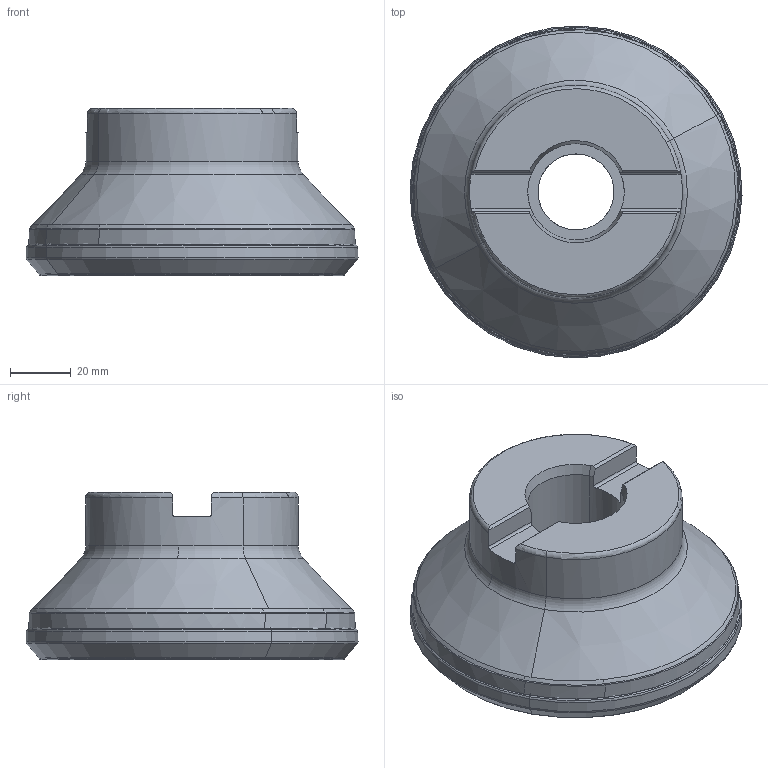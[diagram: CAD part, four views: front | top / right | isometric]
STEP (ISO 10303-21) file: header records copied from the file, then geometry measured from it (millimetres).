
FILE_DESCRIPTION(('CATIA V5 STEP','CAx-IF Rec.Pracs.--- Model Styling and Organization---1.2---2011-12-15'),'2;1');
FILE_NAME('N:\data\isr\design\special1\users\NATALY_B\Tal\NPA\3106857\IQ845 FSYD100-07-3175-R07-L.stp','2016-05-29T08:09:04+00:00',('none'),('none'),'CATIA Version 5 Release 21 SP 5 (IN-10)','CATIA V5 STEP AP214','none');
FILE_SCHEMA(('AUTOMOTIVE_DESIGN { 1 0 10303 214 1 1 1 1 }'));
Length unit declared in the file: millimetre
Products named in the file (1): IQ845 FSYD100-07-3175-R07
Bounding box: 109.21 x 109.21 x 55 mm (x, y, z)
Volume: 287993.1 mm3; surface area: 47503.3 mm2
Topology: 2 solids, 2 shells, 160 faces, 357 edges, 201 vertices
Faces by surface type: revolution 100, cone 16, plane 16, torus 16, cylinder 12
Entity records: 5287 total; most frequent: CARTESIAN_POINT 1856, ORIENTED_EDGE 714, DIRECTION 473, EDGE_CURVE 357, AXIS2_PLACEMENT_3D 229, VERTEX_POINT 201, B_SPLINE_CURVE_WITH_KNOTS 188, CIRCLE 176
